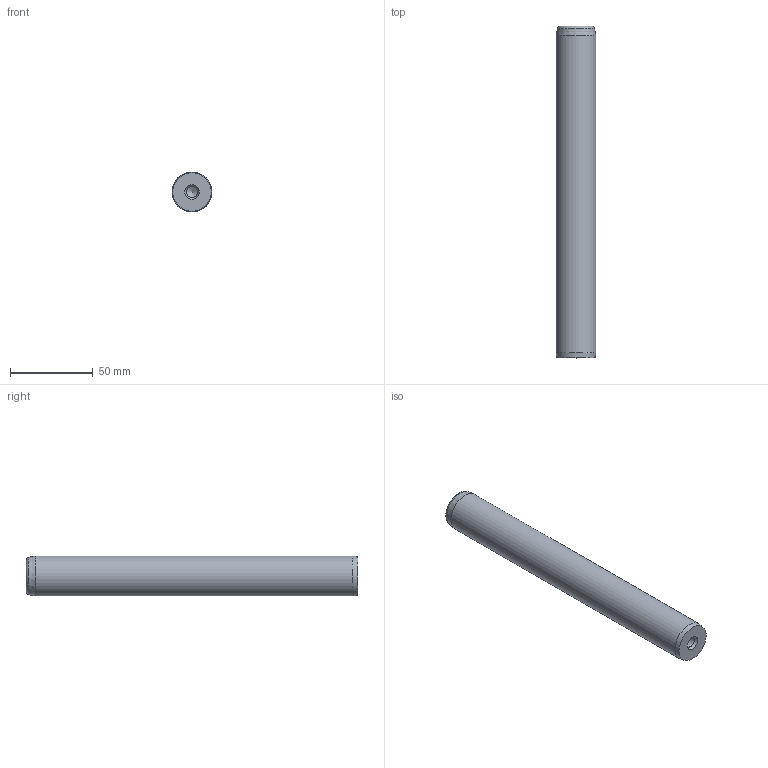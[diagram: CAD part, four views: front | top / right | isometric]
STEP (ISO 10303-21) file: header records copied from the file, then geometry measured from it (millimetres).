
FILE_DESCRIPTION( ( 'STEP AP203' ), '1' );
FILE_NAME( 'D:/Cuma/D14/D14_24200.step', '2003-01-18T23:31:31', ( ' ' ), ( ' ' ), 'XStep 1.0', ' ', ' ' );
FILE_SCHEMA( ( 'CONFIG_CONTROL_DESIGN' ) );
Length unit declared in the file: metre
Products named in the file (1): 1
Bounding box: 24 x 200 x 24 mm (x, y, z)
Volume: 88237.1 mm3; surface area: 16933.5 mm2
Topology: 1 solids, 1 shells, 14 faces, 29 edges, 17 vertices
Faces by surface type: cone 6, cylinder 5, plane 2, torus 1
Full cylindrical faces by diameter (mm): 6.75 x4, 24 x1
Entity records: 327 total; most frequent: DIRECTION 56, CARTESIAN_POINT 43, AXIS2_PLACEMENT_3D 28, EDGE_LOOP 26, ORIENTED_EDGE 26, FACE_OUTER_BOUND 20, VERTEX_POINT 15, ADVANCED_FACE 14
